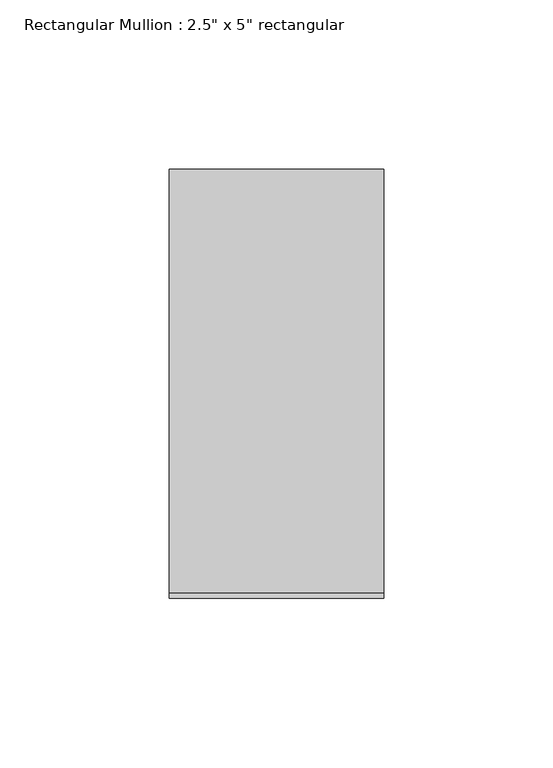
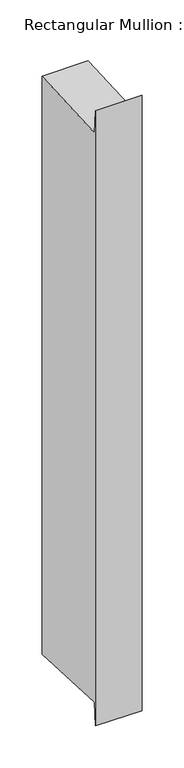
"""IFC4 building model written with IfcOpenShell, lengths in millimetres: member geometry."""

from ifc_helpers import new_model, si_unit, frame, origin, place, context, project, spatial, polyline, outline, extrude, source, transform, mapped, element, save


def member_ab6b85c2(model_context):
    return source(origin(), model_context, "Body", "SweptSolid", [
        extrude(outline(polyline([(-63.5, 30.1696873), (-61.8420563, -3.1193645), (63.5, 3.1232308), (63.5, -833.8424465), (-61.8420563, -827.5998512), (-63.5, -860.888903), (-63.5, 30.1696873)])), frame((-63.5, 0.0, 0.0), z_axis=(1.0, 0.0, 0.0), x_axis=(0.0, 1.0, 0.0)), (0.0, 0.0, 1.0), 63.5),
    ])


if __name__ == "__main__":
    model = new_model("IFC4")
    model_context = context("Model", 3, world=origin())
    ifc_project = project(units=[si_unit("LENGTHUNIT", "METRE", prefix="MILLI")], contexts=[model_context])
    site = spatial("IfcSite", under=ifc_project)
    building = spatial("IfcBuilding", under=site)
    placement = place(None, origin())
    member_shape = member_ab6b85c2(model_context)
    element("IfcMember", 1, ObjectType="Rectangular Mullion : 2.5\" x 5\" rectangular", at=placement, inside=building, context=model_context, shape_type="MappedRepresentation", body=[
        mapped(member_shape, transform((0.0, 0.0, 0.0), x_axis=(1.0, 0.0, 0.0), y_axis=(0.0, 1.0, 0.0), z_axis=(0.0, 0.0, 1.0))),
    ])
    save(model, "model.ifc")
